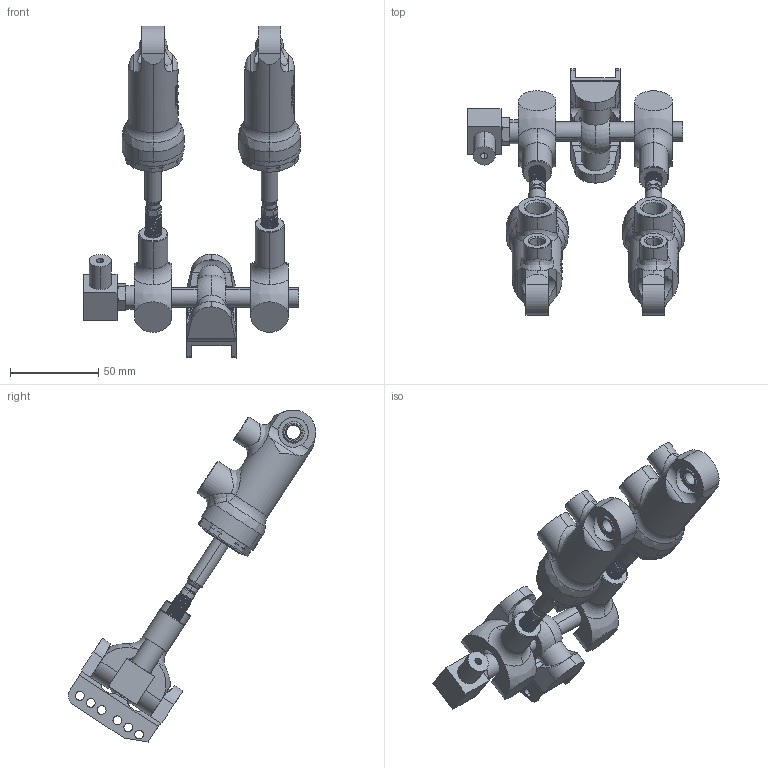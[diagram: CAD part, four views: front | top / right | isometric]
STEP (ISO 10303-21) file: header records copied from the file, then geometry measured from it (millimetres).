
FILE_DESCRIPTION(('3DEXPERIENCE STEP','CAx-IF Rec.Pracs.--- Model Styling and Organization---1.5--- 2016-08-15','CAx-IF Rec.Pracs.---Supplemental Geometry---1.0---2011-11-01','CAx-IF Rec.Pracs.--- Composite Materials ---3.4---2017-06-13','CAx-IF Rec.Pracs.---Tessellated 3D Geometry---1.0---2015-12-17'),'2;1');
FILE_NAME('\\?\D:\School\CarTech\CTU.25\Tutorials\Model\OEM\Tilton_Assembly.stp','2024-09-26T02:32:49+00:00',('none'),('none'),'3DEXPERIENCE Platform3DEXPERIENCE R2024x HotFix 4.24','3DEXPERIENCE Platform STEP AP242 v3','none');
FILE_SCHEMA(('AP242_MANAGED_MODEL_BASED_3D_ENGINEERING_MIM_LF {1 0 10303 442 1 1 4}'));
Products named in the file (5): Tilton; 4876; 4876_1; 4784; Brake_bias_90_degree_coupler
Assembly tree (4 placements, depth 2):
  Tilton
    4876
    4876_1
    4784
    Brake_bias_90_degree_coupler
Bounding box: 123.08 x 140.3 x 188.34 mm (x, y, z)
Volume: 207160.7 mm3; surface area: 62072.6 mm2
Topology: 4 solids, 6 shells, 2169 faces, 6081 edges, 4032 vertices
Faces by surface type: plane 818, cylinder 681, bspline 458, cone 160, torus 32, sphere 20
Entity records: 101341 total; most frequent: CARTESIAN_POINT 56653, ORIENTED_EDGE 12154, EDGE_CURVE 6077, DIRECTION 4815, VERTEX_POINT 4032, B_SPLINE_CURVE_WITH_KNOTS 2737, EDGE_LOOP 2333, ADVANCED_FACE 2169
